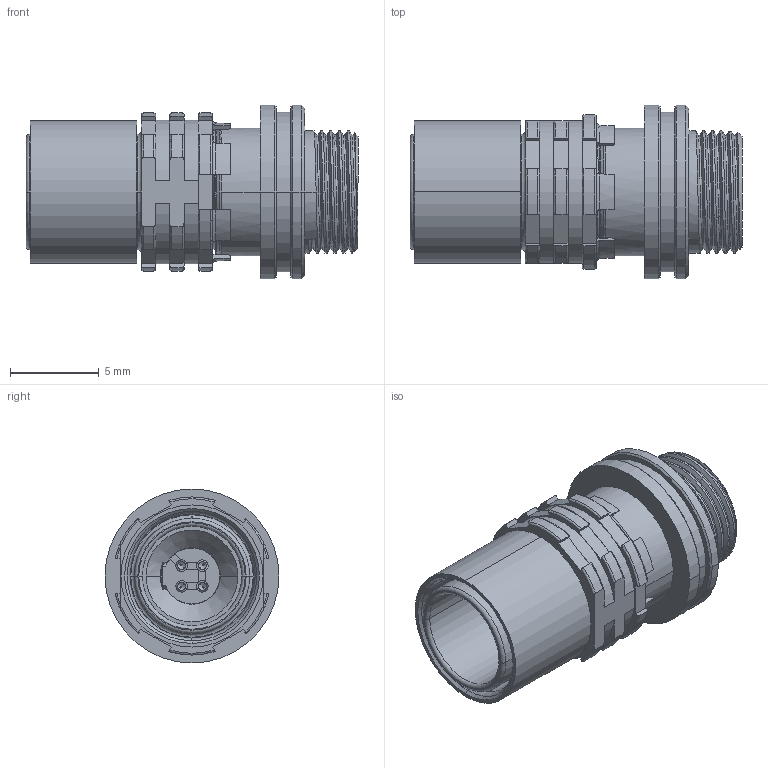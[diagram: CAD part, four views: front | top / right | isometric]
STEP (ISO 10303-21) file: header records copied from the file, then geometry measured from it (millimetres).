
FILE_DESCRIPTION((''),'2;1');
FILE_NAME('KCCW_M-P04WBC0-0000_EXTERN','2020-12-23T12:37:50',('FHeitzinger'),(''),'CREO PARAMETRIC BY PTC INC, 2018300','CREO PARAMETRIC BY PTC INC, 2018300','');
FILE_SCHEMA(('AP242_MANAGED_MODEL_BASED_3D_ENGINEERING_MIM_LF { 1 0 10303 442 1 1 4 }'));
Length unit declared in the file: millimetre
Products named in the file (1): KCCW_M-P04WBC0-0000_EXTERN
Bounding box: 18.7 x 9.8 x 9.8 mm (x, y, z)
Volume: 577.6 mm3; surface area: 1738.4 mm2
Topology: 1 solids, 1 shells, 546 faces, 1640 edges, 1083 vertices
Faces by surface type: plane 183, cylinder 162, torus 89, cone 88, bspline 22, sphere 2
Entity records: 29818 total; most frequent: CARTESIAN_POINT 13119, ORIENTED_EDGE 3264, DIRECTION 2962, EDGE_CURVE 1632, AXIS2_PLACEMENT_3D 1159, VERTEX_POINT 1083, VECTOR 644, LINE 644
